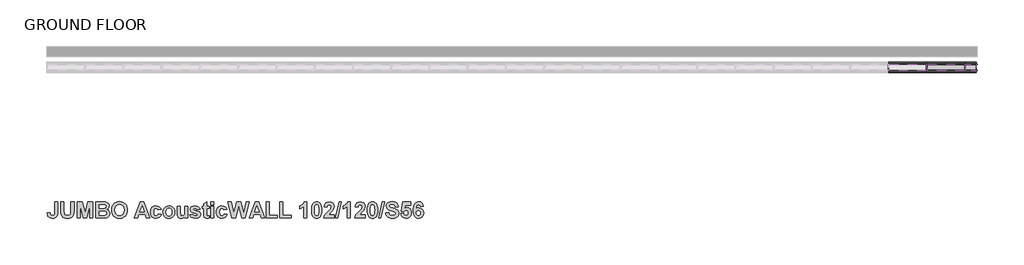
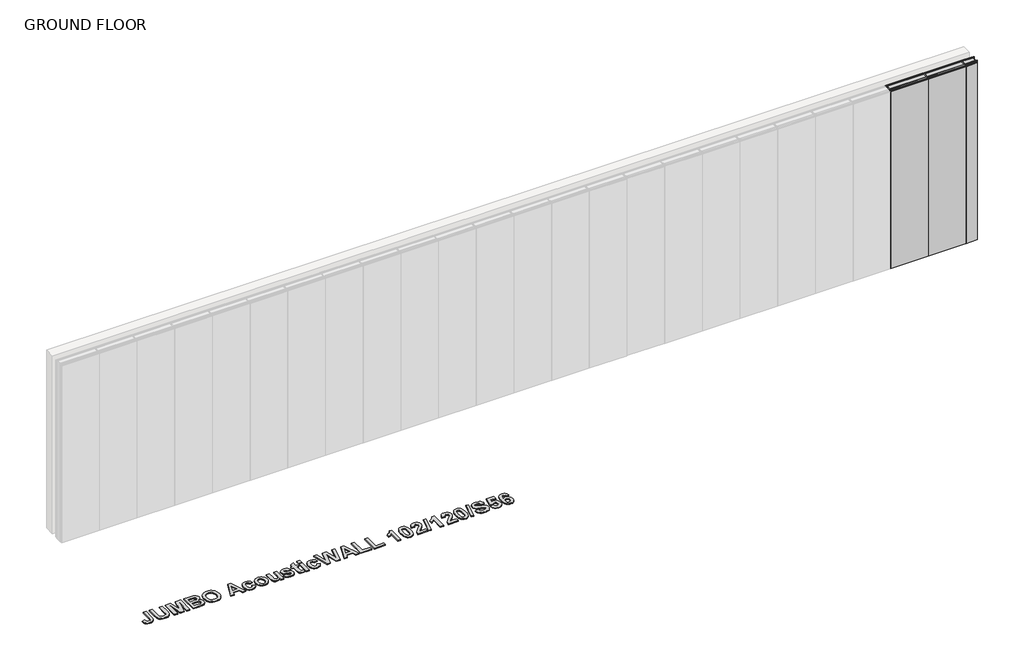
# One storey, part 2 of 2: 9 members, 3 plates, 1 proxy.
"""IFC4 building model written with IfcOpenShell, lengths in millimetres."""

from ifc_helpers import new_model, si_unit, origin, origin_with_axes, place, context, project, spatial, polyline, outline, extrude, transform, mapped, element, save
from components import rectangular_mullion_stud_mullion_102mm_91d22449, rectangular_mullion_stud_mullion_102mm_93af41ff, rectangular_mullion_stud_mullion_102mm_837ba7e5, rectangular_mullion_stud_mullion_102mm_0e5ab9cc, rectangular_mullion_stud_mullion_102mm_f96a71aa, rectangular_mullion_stud_mullion_102mm_f78c933b, plate_2_layer_30mm_drywall_panels_162mm_d42060e6, plate_2_layer_30mm_drywall_panels_162mm_94d5aa89

model = new_model("IFC4")

# Units and contexts
model_context = context("Model", 3, world=origin())
ifc_project = project(units=[si_unit("LENGTHUNIT", "METRE", prefix="MILLI")], contexts=[model_context])

# Site, building, storey
site = spatial("IfcSite", under=ifc_project)
building = spatial("IfcBuilding", under=site)
storey = spatial("IfcBuildingStorey", under=building, Name="GROUND FLOOR", Elevation=0.0)

# Proxy
placement = place(None, origin())
element("IfcBuildingElementProxy", 1, Name="600mm Arial", ObjectType="600mm Arial", at=placement, inside=storey, context=model_context, shape_type="SweptSolid", body=[
    extrude(outline(polyline([(61762.9500241, -57331.743976), (61811.5338051, -57331.743976), (61811.5338051, -57492.994051), (61810.1104521, -57520.9866592), (61805.8403932, -57541.7043522), (61795.149431, -57561.7261838), (61778.2589759, -57577.3830664), (61755.0741377, -57587.4888724), (61725.5000263, -57590.8574744), (61691.5293357, -57585.4566406), (61677.8651473, -57578.7055985), (61666.4150635, -57569.2541395), (61657.3530497, -57557.1892463), (61650.8530712, -57542.5979016), (61645.5392201, -57505.8358577), (61694.1230011, -57501.7872093), (61696.3529207, -57520.417318), (61701.1448757, -57532.6581534), (61712.5633294, -57542.9062947), (61728.726293, -57546.3223418), (61744.7073837, -57543.8710117), (61755.200658, -57536.5170215), (61761.0126826, -57521.4611102), (61762.9500241, -57495.9040171), (61762.9500241, -57331.743976)])), origin_with_axes(), (0.0, 0.0, 1.0), 15.0),
    extrude(outline(polyline([(61860.117586, -57331.743976), (61908.701367, -57331.743976), (61908.701367, -57469.3347619), (61910.7889513, -57511.8455702), (61916.8777389, -57525.8814119), (61927.9324469, -57536.8649522), (61943.9530752, -57543.9579944), (61964.9396238, -57546.3223418), (61985.9024499, -57544.0924222), (62000.9662687, -57537.4026633), (62010.6687913, -57527.4629151), (62015.547729, -57515.4830277), (62018.0148741, -57472.307988), (62018.0148741, -57331.743976), (62066.598655, -57331.743976), (62066.598655, -57465.539154), (62062.3602262, -57530.3807887), (62056.3346987, -57547.8326775), (62046.7349738, -57562.3587851), (62033.4266236, -57574.085632), (62016.2752205, -57583.1397383), (61994.2844173, -57588.9280404), (61966.457867, -57590.8574744), (61933.8630842, -57588.754075), (61910.2196101, -57582.4438769), (61893.0602995, -57572.7650768), (61879.9180071, -57560.5558714), (61870.682028, -57546.7493477), (61865.2416567, -57532.2785926), (61861.3986037, -57505.1716263), (61860.117586, -57467.6267383), (61860.117586, -57331.743976)])), origin_with_axes(), (0.0, 0.0, 1.0), 15.0),
    extrude(outline(polyline([(62115.182436, -57586.808826), (62115.182436, -57331.743976), (62198.432769, -57331.743976), (62238.6662126, -57505.7093374), (62278.8996562, -57331.743976), (62362.1499892, -57331.743976), (62362.1499892, -57586.808826), (62313.5662082, -57586.808826), (62311.541884, -57386.0211687), (62267.1332717, -57586.808826), (62210.2624136, -57586.808826), (62165.7905412, -57386.0211687), (62163.7662169, -57586.808826), (62115.182436, -57586.808826)])), origin_with_axes(), (0.0, 0.0, 1.0), 15.0),
    extrude(outline(polyline([(62410.7337701, -57331.743976), (62515.4292877, -57331.743976), (62561.7673339, -57334.2743812), (62589.0957107, -57344.8704532), (62600.1425112, -57354.2645828), (62609.1808025, -57366.3156378), (62615.20633, -57380.5096298), (62617.2148391, -57396.3325702), (62614.8188617, -57413.570956), (62607.6309292, -57429.3543588), (62596.3310883, -57442.5282812), (62581.5993851, -57451.9382257), (62600.2294939, -57461.0793147), (62613.9885724, -57474.9649136), (62622.4812451, -57492.6619353), (62625.312136, -57513.2372931), (62623.2799042, -57530.3254361), (62617.1832091, -57546.9233131), (62607.5676691, -57561.6312936), (62594.9789029, -57573.0497474), (62579.2666678, -57580.9493563), (62560.2807208, -57585.1008024), (62497.9062312, -57586.808826), (62410.7337701, -57586.808826), (62410.7337701, -57331.743976)]), holes=[polyline([(62459.3175511, -57376.2791085), (62459.3175511, -57432.9601863), (62496.3879881, -57432.9601863), (62537.5070735, -57432.1378046), (62550.4516779, -57429.1803934), (62560.3123509, -57423.3446463), (62566.5513814, -57414.9152338), (62568.6310582, -57404.1768265), (62566.836052, -57393.9049626), (62561.4510333, -57385.7364982), (62552.5392623, -57380.0193638), (62540.163999, -57377.1014902), (62491.8332586, -57376.2791085), (62459.3175511, -57376.2791085)]), polyline([(62459.3175511, -57477.4953188), (62459.3175511, -57542.2736934), (62510.6847778, -57542.2736934), (62548.7673769, -57540.7554503), (62560.0118653, -57537.3631257), (62568.9473589, -57531.1082802), (62574.783106, -57522.117434), (62576.728355, -57510.5171074), (62575.2259269, -57500.4587465), (62570.7186425, -57492.045149), (62553.3853665, -57480.974626), (62504.1689843, -57477.4953188), (62459.3175511, -57477.4953188)])]), origin_with_axes(), (0.0, 0.0, 1.0), 15.0),
    extrude(outline(polyline([(62657.7013233, -57460.8579042), (62660.5638442, -57425.0842999), (62669.1514071, -57395.5734486), (62679.2493055, -57377.1410278), (62692.4627655, -57360.6854861), (62707.9377752, -57347.2189856), (62724.8203227, -57337.7536884), (62750.0294851, -57330.2099178), (62778.844475, -57327.6953275), (62805.1369671, -57329.8758252), (62828.6618285, -57336.4173182), (62849.4190591, -57347.3198065), (62867.408659, -57362.58329), (62881.9387205, -57381.7293642), (62892.3173358, -57404.2796242), (62898.544505, -57430.23407), (62900.620228, -57459.5927016), (62898.56032, -57488.7516685), (62892.3805959, -57514.5499408), (62882.0810558, -57536.9875187), (62867.6616995, -57556.0644021), (62849.7907124, -57571.2863712), (62829.1362795, -57582.1592063), (62805.6984008, -57588.6829073), (62779.4770763, -57590.8574744), (62752.9789887, -57588.6927917), (62729.3434221, -57582.1987439), (62708.5703765, -57571.3753308), (62690.6598518, -57556.2225524), (62676.2404955, -57537.2741661), (62665.9409554, -57515.0639294), (62659.7612313, -57489.5918421), (62657.7013233, -57460.8579042)]), holes=[polyline([(62706.2851042, -57459.0866206), (62711.4487125, -57496.837104), (62717.9032227, -57511.8099864), (62726.9395371, -57524.1812958), (62750.3853234, -57540.7870803), (62779.4138162, -57546.3223418), (62808.3790489, -57540.8266179), (62831.6350547, -57524.3394461), (62840.5606639, -57511.9740673), (62846.936099, -57496.8608266), (62852.0364471, -57458.3907591), (62847.0705268, -57420.4979404), (62840.8631264, -57405.6792546), (62832.1727658, -57393.6123845), (62809.0511878, -57377.5759412), (62779.4138162, -57372.2304601), (62749.7131845, -57377.6392013), (62726.401826, -57393.865425), (62717.6007602, -57406.0548616), (62711.3142847, -57420.9882064), (62706.2851042, -57459.0866206)])]), origin_with_axes(), (0.0, 0.0, 1.0), 15.0),
    extrude(outline(polyline([(63252.8526399, -57586.808826), (63201.8017138, -57586.808826), (63181.8115123, -57530.1277482), (63085.4663321, -57530.1277482), (63065.7291711, -57586.808826), (63013.9823836, -57586.808826), (63107.1012971, -57331.743976), (63158.8480846, -57331.743976), (63252.8526399, -57586.808826)]), holes=[polyline([(63166.24952, -57485.5926156), (63133.4175117, -57392.4737021), (63101.0283244, -57485.5926156), (63166.24952, -57485.5926156)])]), origin_with_axes(), (0.0, 0.0, 1.0), 15.0),
    extrude(outline(polyline([(63430.9931701, -57453.2034283), (63382.4093891, -57461.3007252), (63378.6849489, -57448.941277), (63372.0663576, -57440.0769511), (63362.7908409, -57434.7393775), (63351.095624, -57432.9601863), (63335.691782, -57436.2971582), (63323.7672473, -57446.308074), (63316.1285864, -57464.131616), (63313.5823661, -57490.9064667), (63316.2313841, -57520.5912834), (63324.1784381, -57540.0595888), (63336.5853314, -57550.8296262), (63352.6138672, -57554.4196387), (63364.7519049, -57552.3715919), (63374.4702426, -57546.2274516), (63381.7214352, -57535.0699459), (63386.4580375, -57517.9818029), (63435.0418185, -57526.0790998), (63424.4062089, -57554.2219507), (63407.0492103, -57574.5047304), (63382.8126725, -57586.7692884), (63351.538445, -57590.8574744), (63332.7719316, -57589.2482948), (63316.0099736, -57584.420756), (63301.2525711, -57576.374858), (63288.499724, -57565.1106009), (63278.2179757, -57551.0035916), (63270.8738699, -57534.4294371), (63266.4674063, -57515.3881375), (63264.9985852, -57493.8796929), (63266.4575219, -57472.128092), (63270.8343323, -57452.9266653), (63278.1290162, -57436.2754125), (63288.3415737, -57422.1743339), (63301.0449988, -57410.9515912), (63315.8122857, -57402.9353464), (63332.6434345, -57398.1255995), (63351.538445, -57396.5223506), (63380.7804407, -57400.0253803), (63403.3484926, -57410.5344697), (63419.875202, -57428.2077689), (63430.9931701, -57453.2034283)])), origin_with_axes(), (0.0, 0.0, 1.0), 15.0),
    extrude(outline(polyline([(63459.333709, -57491.0329869), (63462.3306577, -57466.9387844), (63471.3215039, -57443.6195184), (63485.8001664, -57423.3999989), (63505.2605644, -57408.6050357), (63528.4928477, -57399.5430218), (63554.2871663, -57396.5223506), (63574.2793447, -57398.2343279), (63592.3776729, -57403.3702598), (63608.5821509, -57411.9301463), (63622.8927788, -57423.9139875), (63634.5860187, -57438.5152166), (63642.938333, -57454.9272669), (63647.9497215, -57473.1501385), (63649.6201843, -57493.1838314), (63647.9319296, -57513.3776515), (63642.8671653, -57531.7646041), (63634.4258915, -57548.3446892), (63622.6081082, -57563.1179067), (63608.2322433, -57575.2539676), (63592.1167249, -57583.9225825), (63574.2615528, -57589.1237514), (63554.666727, -57590.8574744), (63529.8924781, -57587.9712309), (63506.3043566, -57579.3125004), (63486.0611145, -57565.0710633), (63471.3215039, -57545.4367), (63462.3306577, -57520.6703585), (63459.333709, -57491.0329869)]), holes=[polyline([(63507.9174899, -57493.6899125), (63511.2781844, -57519.6661039), (63521.3602678, -57538.7627561), (63536.3766415, -57550.505418), (63554.5402068, -57554.4196387), (63572.687957, -57550.505418), (63587.6568856, -57538.7627561), (63597.6915239, -57519.5712137), (63601.0364034, -57493.3103517), (63597.6915239, -57467.6188308), (63587.6568856, -57448.6170688), (63572.687957, -57436.8744069), (63554.5402068, -57432.9601863), (63536.3766415, -57436.8744069), (63521.3602678, -57448.6170688), (63511.2781844, -57467.713721), (63507.9174899, -57493.6899125)])]), origin_with_axes(), (0.0, 0.0, 1.0), 15.0),
    extrude(outline(polyline([(63803.468824, -57586.808826), (63803.468824, -57559.4804492), (63792.2796883, -57572.5357588), (63778.0698812, -57582.4755069), (63761.8990101, -57588.7619825), (63744.8266822, -57590.8574744), (63727.9520421, -57588.8015201), (63712.8803158, -57582.6336573), (63700.6711104, -57572.7413542), (63692.3840332, -57559.5120792), (63687.6395233, -57541.7597048), (63686.0580201, -57518.2981036), (63686.0580201, -57400.570999), (63734.641801, -57400.570999), (63734.641801, -57486.6680379), (63737.2670965, -57535.0936685), (63746.8826364, -57549.2006778), (63764.6271033, -57554.4196387), (63776.25906, -57552.679985), (63786.609999, -57547.4610242), (63794.786371, -57539.6563055), (63799.8946266, -57530.1593782), (63803.468824, -57479.5829032), (63803.468824, -57400.570999), (63852.052605, -57400.570999), (63852.052605, -57586.808826), (63803.468824, -57586.808826)])), origin_with_axes(), (0.0, 0.0, 1.0), 15.0),
    extrude(outline(polyline([(63880.3931439, -57534.1763966), (63928.9769248, -57526.0790998), (63933.6028219, -57538.3199352), (63941.4075406, -57547.2079837), (63952.6599365, -57552.6167249), (63967.6288651, -57554.4196387), (63983.8709039, -57552.6958001), (63995.5265831, -57547.5242843), (64000.2710929, -57541.8941326), (64001.8525962, -57534.6192175), (63998.4998093, -57525.5097586), (63982.6215163, -57519.1204853), (63935.6983138, -57506.6898695), (63909.809105, -57495.3346759), (63893.8201068, -57477.3529835), (63888.4904407, -57453.519729), (63893.0609852, -57431.3312379), (63906.7726187, -57412.9699847), (63930.0997921, -57400.6342591), (63963.5169566, -57396.5223506), (63995.3842478, -57399.8435075), (64017.8574095, -57409.8069782), (64032.8658757, -57426.2862424), (64042.3390804, -57449.1547799), (63993.7552994, -57457.2520767), (63990.181102, -57446.8616002), (63984.3928, -57439.2229393), (63976.0424626, -57434.5258745), (63964.7821592, -57432.9601863), (63950.9440055, -57434.288649), (63941.6922112, -57438.2740373), (63937.0742216, -57448.1426178), (63941.6922112, -57456.9357761), (63984.6774705, -57470.5367044), (64015.9042529, -57480.3578398), (64036.0130672, -57492.2349294), (64046.8305497, -57507.907627), (64050.4363772, -57528.7360253), (64045.2095088, -57552.434852), (64029.5289037, -57572.5436663), (64017.8198488, -57580.5559573), (64003.6001574, -57586.2790223), (63967.6288651, -57590.8574744), (63934.3144984, -57587.0460514), (63908.7653128, -57575.6117827), (63890.8389731, -57557.6300903), (63880.3931439, -57534.1763966)])), origin_with_axes(), (0.0, 0.0, 1.0), 15.0),
    extrude(outline(polyline([(64184.0417748, -57400.570999), (64184.0417748, -57437.0088347), (64147.6039391, -57437.0088347), (64147.6039391, -57516.9063807), (64148.7109914, -57545.1520294), (64153.7401718, -57551.7943432), (64163.2924517, -57554.4196387), (64186.066099, -57549.7383889), (64188.0904232, -57584.2784207), (64169.3496093, -57589.2127109), (64148.2998005, -57590.8574744), (64123.7548695, -57586.3027449), (64107.7184262, -57574.5363605), (64100.6016614, -57554.9889798), (64099.0201581, -57519.6265664), (64099.0201581, -57437.0088347), (64074.7282677, -57437.0088347), (64074.7282677, -57400.570999), (64099.0201581, -57400.570999), (64099.0201581, -57364.1331633), (64147.6039391, -57335.7926244), (64147.6039391, -57400.570999), (64184.0417748, -57400.570999)])), origin_with_axes(), (0.0, 0.0, 1.0), 15.0),
    extrude(outline(polyline([(64212.3823137, -57376.2791085), (64212.3823137, -57331.743976), (64260.9660946, -57331.743976), (64260.9660946, -57376.2791085), (64212.3823137, -57376.2791085)])), origin_with_axes(), (0.0, 0.0, 1.0), 15.0),
    extrude(outline(polyline([(64212.3823137, -57586.808826), (64212.3823137, -57400.570999), (64260.9660946, -57400.570999), (64260.9660946, -57586.808826), (64212.3823137, -57586.808826)])), origin_with_axes(), (0.0, 0.0, 1.0), 15.0),
    extrude(outline(polyline([(64463.3985153, -57453.2034283), (64414.8147343, -57461.3007252), (64411.0902941, -57448.941277), (64404.4717028, -57440.0769511), (64395.196186, -57434.7393775), (64383.5009692, -57432.9601863), (64368.0971272, -57436.2971582), (64356.1725925, -57446.308074), (64348.5339316, -57464.131616), (64345.9877113, -57490.9064667), (64348.6367293, -57520.5912834), (64356.5837833, -57540.0595888), (64368.9906766, -57550.8296262), (64385.0192124, -57554.4196387), (64397.1572501, -57552.3715919), (64406.8755878, -57546.2274516), (64414.1267804, -57535.0699459), (64418.8633827, -57517.9818029), (64467.4471637, -57526.0790998), (64456.8115541, -57554.2219507), (64439.4545555, -57574.5047304), (64415.2180176, -57586.7692884), (64383.9437902, -57590.8574744), (64365.1772768, -57589.2482948), (64348.4153188, -57584.420756), (64333.6579163, -57576.374858), (64320.9050692, -57565.1106009), (64310.6233209, -57551.0035916), (64303.2792151, -57534.4294371), (64298.8727515, -57515.3881375), (64297.4039303, -57493.8796929), (64298.8628671, -57472.128092), (64303.2396775, -57452.9266653), (64310.5343614, -57436.2754125), (64320.7469188, -57422.1743339), (64333.450344, -57410.9515912), (64348.2176309, -57402.9353464), (64365.0487797, -57398.1255995), (64383.9437902, -57396.5223506), (64413.1857859, -57400.0253803), (64435.7538378, -57410.5344697), (64452.2805472, -57428.2077689), (64463.3985153, -57453.2034283)])), origin_with_axes(), (0.0, 0.0, 1.0), 15.0),
    extrude(outline(polyline([(65054.5011835, -57586.808826), (65003.4502574, -57586.808826), (64983.4600559, -57530.1277482), (64887.1148757, -57530.1277482), (64867.3777147, -57586.808826), (64815.6309272, -57586.808826), (64908.7498406, -57331.743976), (64960.4966282, -57331.743976), (65054.5011835, -57586.808826)]), holes=[polyline([(64967.8980635, -57485.5926156), (64935.0660553, -57392.4737021), (64902.676868, -57485.5926156), (64967.8980635, -57485.5926156)])]), origin_with_axes(), (0.0, 0.0, 1.0), 15.0),
    extrude(outline(polyline([(64543.8021423, -57586.808826), (64479.5931089, -57331.743976), (64529.4420925, -57331.743976), (64570.6876982, -57506.9745401), (64615.0330503, -57331.743976), (64680.3807661, -57331.743976), (64724.5363379, -57509.8845061), (64765.7819436, -57331.743976), (64815.6309272, -57331.743976), (64752.3707957, -57586.808826), (64694.8673362, -57586.808826), (64647.612018, -57396.1427898), (64599.4077979, -57586.808826), (64543.8021423, -57586.808826)])), origin_with_axes(), (0.0, 0.0, 1.0), 15.0),
    extrude(outline(polyline([(65078.793074, -57586.808826), (65078.793074, -57331.743976), (65127.3768549, -57331.743976), (65127.3768549, -57542.2736934), (65256.9336041, -57542.2736934), (65256.9336041, -57586.808826), (65078.793074, -57586.808826)])), origin_with_axes(), (0.0, 0.0, 1.0), 15.0),
    extrude(outline(polyline([(65293.3714398, -57586.808826), (65293.3714398, -57331.743976), (65341.9552208, -57331.743976), (65341.9552208, -57542.2736934), (65471.51197, -57542.2736934), (65471.51197, -57586.808826), (65293.3714398, -57586.808826)])), origin_with_axes(), (0.0, 0.0, 1.0), 15.0),
    extrude(outline(polyline([(65718.4795231, -57586.808826), (65669.8957422, -57586.808826), (65669.8957422, -57404.4931271), (65641.8398739, -57428.3738267), (65609.166016, -57445.1061315), (65609.166016, -57396.5223506), (65628.6343215, -57387.4366142), (65649.7157603, -57372.7049111), (65668.1719036, -57353.6873341), (65679.7643227, -57331.743976), (65718.4795231, -57331.743976), (65718.4795231, -57586.808826)])), origin_with_axes(), (0.0, 0.0, 1.0), 15.0),
    extrude(outline(polyline([(65872.3281628, -57331.743976), (65889.4597972, -57333.3887394), (65904.6066449, -57338.3230296), (65917.768706, -57346.5468467), (65928.9459805, -57358.0601906), (65939.6013589, -57376.1881721), (65947.2123434, -57399.4481316), (65951.7789342, -57427.8400694), (65953.3011311, -57461.3639853), (65951.7710266, -57494.8562711), (65947.1807134, -57523.2798389), (65939.5301912, -57546.6346887), (65928.8194602, -57564.9208205), (65917.6975383, -57576.2681065), (65904.5750148, -57584.3733109), (65889.4518897, -57589.2364335), (65872.3281628, -57590.8574744), (65855.0205862, -57589.0782832), (65839.4724321, -57583.7407096), (65825.6837003, -57574.8447536), (65813.6543909, -57562.3904152), (65803.8984925, -57545.3694861), (65796.9299937, -57522.7737579), (65792.7488943, -57494.6032306), (65791.3551946, -57460.8579042), (65792.885299, -57427.5316762), (65797.4756123, -57399.2267212), (65805.1261344, -57375.9430391), (65815.8368654, -57357.6806299), (65826.9587873, -57346.3333438), (65840.0813108, -57338.2281394), (65855.204436, -57333.3650168), (65872.3281628, -57331.743976)]), holes=[polyline([(65872.3281628, -57376.2791085), (65856.1335692, -57381.6245896), (65849.807556, -57389.0971926), (65845.1263063, -57400.8240395), (65841.2358082, -57424.9735947), (65839.9389755, -57461.3639853), (65841.0934729, -57497.2720174), (65844.5569651, -57519.8479768), (65849.7838335, -57533.1009744), (65856.2284594, -57541.0401208), (65872.3281628, -57546.3223418), (65888.5227565, -57540.9768607), (65894.8487696, -57533.5042577), (65899.5300193, -57521.7774108), (65903.4205174, -57497.7543759), (65904.7173501, -57461.3639853), (65903.5628527, -57425.4954908), (65900.0993605, -57402.9116238), (65894.8724922, -57389.6190887), (65888.4278663, -57381.6245896), (65872.3281628, -57376.2791085)])]), origin_with_axes(), (0.0, 0.0, 1.0), 15.0),
    extrude(outline(polyline([(66147.6362549, -57538.225045), (66147.6362549, -57586.808826), (65985.6903184, -57586.808826), (65990.8618341, -57562.3034325), (66001.1890506, -57539.1423169), (66020.3726854, -57512.96053), (66052.1134564, -57479.3931228), (66089.6899745, -57438.6535981), (66096.7118491, -57423.9456175), (66099.0524739, -57409.4274174), (66097.0835023, -57395.2808705), (66091.1765876, -57384.8508563), (66081.8061806, -57378.4220455), (66069.4467324, -57376.2791085), (66057.1742669, -57378.3904154), (66047.6852472, -57384.724336), (66041.2959739, -57395.9451019), (66038.3227477, -57412.7169442), (65989.7389668, -57408.288735), (65998.3423447, -57373.1398245), (66005.9651905, -57359.9006651), (66015.8021409, -57349.551703), (66040.4261471, -57336.1959077), (66070.5221546, -57331.743976), (66102.6583014, -57336.7336188), (66127.0767122, -57351.7025474), (66142.4963692, -57374.0887264), (66147.6362549, -57401.3301206), (66142.0061032, -57433.4662673), (66124.1667461, -57465.4126337), (66093.9600333, -57497.29574), (66066.2204657, -57524.9404174), (66057.1110068, -57538.225045), (66147.6362549, -57538.225045)])), origin_with_axes(), (0.0, 0.0, 1.0), 15.0),
    extrude(outline(polyline([(66162.9452067, -57586.808826), (66223.6749329, -57331.743976), (66260.9984104, -57331.743976), (66200.2686842, -57586.808826), (66162.9452067, -57586.808826)])), origin_with_axes(), (0.0, 0.0, 1.0), 15.0),
    extrude(outline(polyline([(66398.6524564, -57586.808826), (66350.0686755, -57586.808826), (66350.0686755, -57404.4931271), (66322.0128072, -57428.3738267), (66289.3389493, -57445.1061315), (66289.3389493, -57396.5223506), (66308.8072548, -57387.4366142), (66329.8886936, -57372.7049111), (66348.3448369, -57353.6873341), (66359.937256, -57331.743976), (66398.6524564, -57331.743976), (66398.6524564, -57586.808826)])), origin_with_axes(), (0.0, 0.0, 1.0), 15.0),
    extrude(outline(polyline([(66633.4740644, -57538.225045), (66633.4740644, -57586.808826), (66471.5281279, -57586.808826), (66476.6996436, -57562.3034325), (66487.0268601, -57539.1423169), (66506.2104949, -57512.96053), (66537.9512659, -57479.3931228), (66575.527784, -57438.6535981), (66582.5496586, -57423.9456175), (66584.8902834, -57409.4274174), (66582.9213118, -57395.2808705), (66577.0143971, -57384.8508563), (66567.6439901, -57378.4220455), (66555.2845419, -57376.2791085), (66543.0120764, -57378.3904154), (66533.5230567, -57384.724336), (66527.1337834, -57395.9451019), (66524.1605572, -57412.7169442), (66475.5767763, -57408.288735), (66484.1801542, -57373.1398245), (66491.803, -57359.9006651), (66501.6399504, -57349.551703), (66526.2639566, -57336.1959077), (66556.3599641, -57331.743976), (66588.4961109, -57336.7336188), (66612.9145217, -57351.7025474), (66628.3341787, -57374.0887264), (66633.4740644, -57401.3301206), (66627.8439127, -57433.4662673), (66610.0045556, -57465.4126337), (66579.7978428, -57497.29574), (66552.0582752, -57524.9404174), (66542.9488163, -57538.225045), (66633.4740644, -57538.225045)])), origin_with_axes(), (0.0, 0.0, 1.0), 15.0),
    extrude(outline(polyline([(66746.8362199, -57331.743976), (66763.9678543, -57333.3887394), (66779.114702, -57338.3230296), (66792.2767631, -57346.5468467), (66803.4540376, -57358.0601906), (66814.109416, -57376.1881721), (66821.7204005, -57399.4481316), (66826.2869913, -57427.8400694), (66827.8091882, -57461.3639853), (66826.2790837, -57494.8562711), (66821.6887705, -57523.2798389), (66814.0382483, -57546.6346887), (66803.3275173, -57564.9208205), (66792.2055954, -57576.2681065), (66779.0830719, -57584.3733109), (66763.9599468, -57589.2364335), (66746.8362199, -57590.8574744), (66729.5286433, -57589.0782832), (66713.9804892, -57583.7407096), (66700.1917574, -57574.8447536), (66688.162448, -57562.3904152), (66678.4065496, -57545.3694861), (66671.4380508, -57522.7737579), (66667.2569514, -57494.6032306), (66665.8632517, -57460.8579042), (66667.3933561, -57427.5316762), (66671.9836694, -57399.2267212), (66679.6341915, -57375.9430391), (66690.3449225, -57357.6806299), (66701.4668444, -57346.3333438), (66714.5893679, -57338.2281394), (66729.7124931, -57333.3650168), (66746.8362199, -57331.743976)]), holes=[polyline([(66746.8362199, -57376.2791085), (66730.6416263, -57381.6245896), (66724.3156131, -57389.0971926), (66719.6343634, -57400.8240395), (66715.7438653, -57424.9735947), (66714.4470326, -57461.3639853), (66715.60153, -57497.2720174), (66719.0650222, -57519.8479768), (66724.2918906, -57533.1009744), (66730.7365165, -57541.0401208), (66746.8362199, -57546.3223418), (66763.0308136, -57540.9768607), (66769.3568267, -57533.5042577), (66774.0380764, -57521.7774108), (66777.9285745, -57497.7543759), (66779.2254072, -57461.3639853), (66778.0709098, -57425.4954908), (66774.6074176, -57402.9116238), (66769.3805493, -57389.6190887), (66762.9359234, -57381.6245896), (66746.8362199, -57376.2791085)])]), origin_with_axes(), (0.0, 0.0, 1.0), 15.0),
    extrude(outline(polyline([(66843.11814, -57586.808826), (66903.8478662, -57331.743976), (66941.1713437, -57331.743976), (66880.4416175, -57586.808826), (66843.11814, -57586.808826)])), origin_with_axes(), (0.0, 0.0, 1.0), 15.0),
    extrude(outline(polyline([(66953.317289, -57501.7872093), (67001.9010699, -57497.7385609), (67008.9862046, -57519.468416), (67020.8791093, -57534.5559574), (67037.6588592, -57543.3807457), (67059.4045294, -57546.3223418), (67081.9725813, -57543.7207689), (67098.18299, -57535.9160502), (67107.9566803, -57524.6320243), (67111.2145771, -57511.5925297), (67105.8058358, -57496.378468), (67086.8594264, -57485.4660954), (67044.7281789, -57474.6486129), (67008.7647942, -57463.4673847), (66985.3901756, -57449.7873812), (66967.4084832, -57426.4918378), (66961.4145858, -57398.6099349), (66964.1664015, -57379.8216759), (66972.4218487, -57362.2986194), (66985.8646266, -57347.4166735), (67004.1784346, -57336.551746), (67027.0627872, -57329.9094321), (67054.2171986, -57327.6953275), (67096.1823883, -57333.214774), (67112.7229358, -57340.1140821), (67126.3021184, -57349.7731134), (67136.9634274, -57361.733232), (67144.7503542, -57375.535802), (67149.6628988, -57391.1808232), (67151.7010612, -57408.6682958), (67103.1172802, -57408.6682958), (67097.7480766, -57391.9755286), (67088.4725598, -57380.7389478), (67074.4367181, -57374.357582), (67054.7865398, -57372.2304601), (67034.1004768, -57374.4920098), (67018.4752244, -57381.2766589), (67012.1175811, -57388.077123), (67009.9983667, -57396.8386512), (67011.9278007, -57405.1099134), (67017.7161028, -57412.0843429), (67034.5195752, -57420.2528074), (67065.3193517, -57428.6901274), (67098.1908975, -57437.4674706), (67121.2096778, -57446.6560047), (67137.3410113, -57457.7818804), (67149.5502167, -57472.3712482), (67157.2363227, -57490.6059811), (67159.798358, -57512.6679519), (67156.7697792, -57533.7335757), (67147.6840428, -57553.4074765), (67133.0551374, -57569.9500009), (67113.3970516, -57581.6214952), (67088.4962823, -57588.5484796), (67058.1393268, -57590.8574744), (67035.4368471, -57589.4360983), (67015.5336282, -57585.17197), (66998.4296702, -57578.0650897), (66984.124973, -57568.1154571), (66972.5206926, -57555.4416851), (66963.5179852, -57540.1623865), (66957.1168506, -57522.2775612), (66953.317289, -57501.7872093)])), origin_with_axes(), (0.0, 0.0, 1.0), 15.0),
    extrude(outline(polyline([(67192.1875453, -57515.0085768), (67236.7226778, -57509.8845061), (67240.8662165, -57524.9562324), (67249.1216636, -57536.5170215), (67260.2238167, -57543.8710117), (67272.907473, -57546.3223418), (67287.101465, -57543.7207689), (67298.9390171, -57535.9160502), (67306.9335162, -57522.8765556), (67309.5983493, -57504.5706551), (67307.1232966, -57487.4113444), (67299.6981387, -57475.1546939), (67288.3034075, -57467.8007037), (67273.9196351, -57465.3493736), (67255.099746, -57470.4101841), (67238.3674413, -57485.5926156), (67196.2361937, -57479.3298626), (67224.5767326, -57335.7926244), (67346.036185, -57335.7926244), (67346.036185, -57384.3764053), (67263.8612742, -57384.3764053), (67254.0559539, -57430.7460817), (67269.538871, -57423.2972012), (67285.3697189, -57420.814241), (67313.4888474, -57426.5630055), (67336.9899862, -57443.8092988), (67352.8840942, -57470.2283112), (67358.1821302, -57503.4952328), (67353.769736, -57532.4209279), (67340.5325535, -57558.0887263), (67327.3151398, -57572.4250536), (67311.7650088, -57582.6652873), (67293.8821604, -57588.8094276), (67273.6665946, -57590.8574744), (67242.6612227, -57585.7175887), (67217.9660489, -57570.2979316), (67200.7513856, -57546.1958216), (67192.1875453, -57515.0085768)])), origin_with_axes(), (0.0, 0.0, 1.0), 15.0),
    extrude(outline(polyline([(67544.4199572, -57399.4323166), (67495.8361762, -57404.6196474), (67492.8629501, -57392.0229737), (67487.2327984, -57383.2060929), (67479.2303917, -57378.0108546), (67469.1404008, -57376.2791085), (67455.5394725, -57379.639803), (67444.215909, -57389.7218864), (67435.9130167, -57410.5581922), (67431.3741023, -57446.1815537), (67451.3959339, -57430.1925555), (67475.7827146, -57424.8628894), (67503.6092649, -57430.5563013), (67527.1183112, -57447.6365368), (67543.131032, -57473.715526), (67548.4686056, -57506.4051989), (67543.0124193, -57540.8424329), (67536.1921863, -57555.232136), (67526.6438603, -57567.7358963), (67514.9525972, -57577.8515867), (67501.7035534, -57585.0770799), (67470.5321237, -57590.8574744), (67453.0011597, -57588.9913005), (67437.0991442, -57583.3927789), (67422.826077, -57574.0619095), (67410.1819583, -57560.9986923), (67399.8310193, -57543.6851851), (67392.4374914, -57521.6034455), (67388.0013747, -57494.7534734), (67386.5226691, -57463.135269), (67388.0666117, -57430.6828215), (67392.6984394, -57403.1014042), (67400.4181524, -57380.391017), (67411.2257504, -57362.55166), (67424.5004936, -57349.0732982), (67439.6216419, -57339.445897), (67456.5891953, -57333.6694562), (67475.4031538, -57331.743976), (67500.7230214, -57336.077295), (67521.2667491, -57349.077252), (67536.13288, -57370.3326561), (67544.4199572, -57399.4323166)]), holes=[polyline([(67435.1064501, -57505.3297766), (67437.7317455, -57522.7500353), (67445.6076319, -57535.6630097), (67456.8521202, -57543.6575088), (67469.5832217, -57546.3223418), (67481.4761264, -57544.1398673), (67491.2181866, -57537.5924437), (67497.7181652, -57526.0632847), (67499.8848247, -57508.9356041), (67497.5521073, -57491.1832298), (67490.5539553, -57478.9186718), (67480.060681, -57471.7781844), (67467.2425968, -57469.398022), (67454.8040735, -57471.6753867), (67444.4373194, -57478.5074809), (67437.4391674, -57489.7677843), (67435.1064501, -57505.3297766)])]), origin_with_axes(), (0.0, 0.0, 1.0), 15.0),
])

# Members
rectangular_mullion_stud_mullion_102mm_shape = rectangular_mullion_stud_mullion_102mm_91d22449(model_context)
element("IfcMember", 2, ObjectType="Rectangular Mullion : Stud Mullion - 102mm", at=placement, inside=storey, context=model_context, shape_type="MappedRepresentation", body=[
    mapped(rectangular_mullion_stud_mullion_102mm_shape, transform((76216.5186508, -55221.4010443, 3000.0), x_axis=(0.0, 0.0, 1.0), y_axis=(0.0, -1.0, 0.0), z_axis=(1.0, 0.0, 0.0))),
])
rectangular_mullion_stud_mullion_102mm_2_shape = rectangular_mullion_stud_mullion_102mm_93af41ff(model_context)
element("IfcMember", 3, ObjectType="Rectangular Mullion : Stud Mullion - 102mm", at=placement, inside=storey, context=model_context, shape_type="MappedRepresentation", body=[
    mapped(rectangular_mullion_stud_mullion_102mm_2_shape, transform((75454.5186511, -55221.4010443, 0.0), x_axis=(0.0, 0.0, -1.0), y_axis=(0.0, -1.0, 0.0), z_axis=(-1.0, 0.0, 0.0))),
])
rectangular_mullion_stud_mullion_102mm_3_shape = rectangular_mullion_stud_mullion_102mm_837ba7e5(model_context)
element("IfcMember", 4, ObjectType="Rectangular Mullion : Stud Mullion - 102mm", at=placement, inside=storey, context=model_context, shape_type="MappedRepresentation", body=[
    mapped(rectangular_mullion_stud_mullion_102mm_3_shape, transform((76235.5186508, -55221.4010443, 0.0), x_axis=(1.0, 0.0, 0.0), y_axis=(0.0, -1.0, 0.0), z_axis=(0.0, 0.0, -1.0))),
])
rectangular_mullion_stud_mullion_102mm_4_shape = rectangular_mullion_stud_mullion_102mm_0e5ab9cc(model_context)
element("IfcMember", 5, ObjectType="Rectangular Mullion : Stud Mullion - 102mm", at=placement, inside=storey, context=model_context, shape_type="MappedRepresentation", body=[
    mapped(rectangular_mullion_stud_mullion_102mm_4_shape, transform((75435.5186511, -55221.4010443, 3000.0), x_axis=(0.0, 0.0, 1.0), y_axis=(0.0, -1.0, 0.0), z_axis=(1.0, 0.0, 0.0))),
])
element("IfcMember", 6, ObjectType="Rectangular Mullion : Stud Mullion - 102mm", at=placement, inside=storey, context=model_context, shape_type="MappedRepresentation", body=[
    mapped(rectangular_mullion_stud_mullion_102mm_4_shape, transform((76035.5186511, -55221.4010443, 3000.0), x_axis=(0.0, 0.0, 1.0), y_axis=(0.0, -1.0, 0.0), z_axis=(1.0, 0.0, 0.0))),
])
rectangular_mullion_stud_mullion_102mm_5_shape = rectangular_mullion_stud_mullion_102mm_f96a71aa(model_context)
element("IfcMember", 7, ObjectType="Rectangular Mullion : Stud Mullion - 102mm", at=placement, inside=storey, context=model_context, shape_type="MappedRepresentation", body=[
    mapped(rectangular_mullion_stud_mullion_102mm_5_shape, transform((76054.5186511, -55221.4010443, 0.0), x_axis=(0.0, 0.0, -1.0), y_axis=(0.0, -1.0, 0.0), z_axis=(-1.0, 0.0, 0.0))),
])
rectangular_mullion_stud_mullion_102mm_6_shape = rectangular_mullion_stud_mullion_102mm_f78c933b(model_context)
element("IfcMember", 8, ObjectType="Rectangular Mullion : Stud Mullion - 102mm", at=placement, inside=storey, context=model_context, shape_type="MappedRepresentation", body=[
    mapped(rectangular_mullion_stud_mullion_102mm_6_shape, transform((74845.0186511, -55221.4010443, 0.0), x_axis=(1.0, 0.0, 0.0), y_axis=(0.0, -1.0, 0.0), z_axis=(0.0, 0.0, -1.0))),
])
element("IfcMember", 9, ObjectType="Rectangular Mullion : Stud Mullion - 102mm", at=placement, inside=storey, context=model_context, shape_type="MappedRepresentation", body=[
    mapped(rectangular_mullion_stud_mullion_102mm_6_shape, transform((75445.0186511, -55221.4010443, 0.0), x_axis=(1.0, 0.0, 0.0), y_axis=(0.0, -1.0, 0.0), z_axis=(0.0, 0.0, -1.0))),
])
element("IfcMember", 10, ObjectType="Rectangular Mullion : Stud Mullion - 102mm", at=placement, inside=storey, context=model_context, shape_type="MappedRepresentation", body=[
    mapped(rectangular_mullion_stud_mullion_102mm_6_shape, transform((76045.0186511, -55221.4010443, 0.0), x_axis=(1.0, 0.0, 0.0), y_axis=(0.0, -1.0, 0.0), z_axis=(0.0, 0.0, -1.0))),
])

# Plates
plate_2_layer_30mm_drywall_panels_162mm_shape = plate_2_layer_30mm_drywall_panels_162mm_d42060e6(model_context)
element("IfcPlate", 11, ObjectType="4 LayerS - Drywall Panels : 2 Layer - 30mm Drywall Panels 162mm", at=placement, inside=storey, context=model_context, shape_type="MappedRepresentation", body=[
    mapped(plate_2_layer_30mm_drywall_panels_162mm_shape, transform((75136.3186511, -55221.4010443, 1.6), x_axis=(1.0, 0.0, 0.0), y_axis=(0.0, 1.0, 0.0), z_axis=(0.0, 0.0, 1.0))),
])
element("IfcPlate", 12, ObjectType="4 LayerS - Drywall Panels : 2 Layer - 30mm Drywall Panels 162mm", at=placement, inside=storey, context=model_context, shape_type="MappedRepresentation", body=[
    mapped(plate_2_layer_30mm_drywall_panels_162mm_shape, transform((75736.3186511, -55221.4010443, 1.6), x_axis=(1.0, 0.0, 0.0), y_axis=(0.0, 1.0, 0.0), z_axis=(0.0, 0.0, 1.0))),
])
plate_2_layer_30mm_drywall_panels_162mm_2_shape = plate_2_layer_30mm_drywall_panels_162mm_94d5aa89(model_context)
element("IfcPlate", 13, ObjectType="4 LayerS - Drywall Panels : 2 Layer - 30mm Drywall Panels 162mm", at=placement, inside=storey, context=model_context, shape_type="MappedRepresentation", body=[
    mapped(plate_2_layer_30mm_drywall_panels_162mm_2_shape, transform((76126.818651, -55221.4010443, 1.6), x_axis=(1.0, 0.0, 0.0), y_axis=(0.0, 1.0, 0.0), z_axis=(0.0, 0.0, 1.0))),
])

save(model, "model.ifc")
